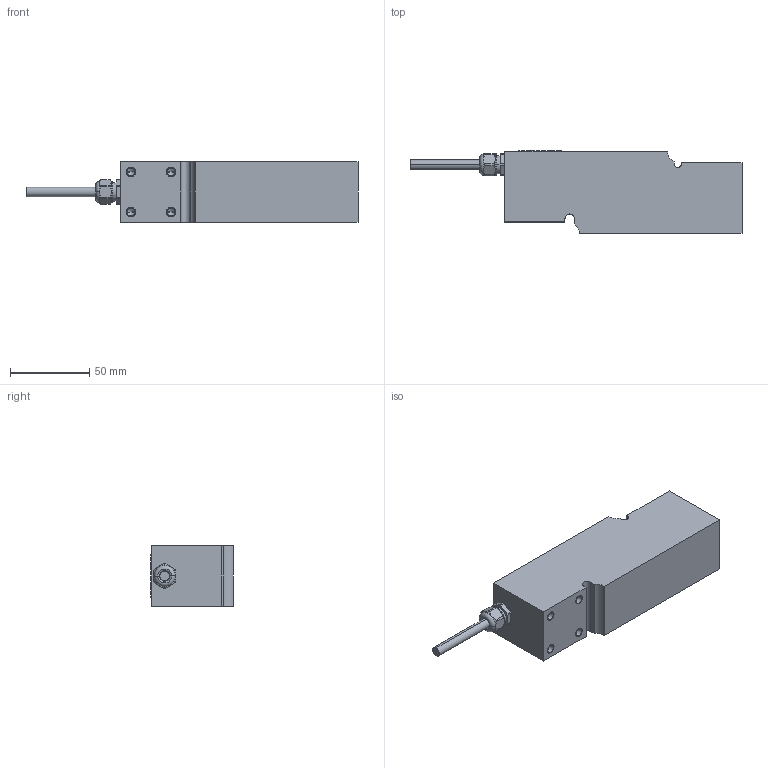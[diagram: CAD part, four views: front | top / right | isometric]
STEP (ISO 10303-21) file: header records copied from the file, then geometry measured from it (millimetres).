
FILE_DESCRIPTION((''),'2;1');
FILE_NAME('D000711413_ASM','2022-04-19T17:15:16',('wang-379'),(''),'CREO PARAMETRIC BY PTC INC, 2018260','CREO PARAMETRIC BY PTC INC, 2018260','');
FILE_SCHEMA(('CONFIG_CONTROL_DESIGN'));
Length unit declared in the file: millimetre
Products named in the file (4): D000512393; D000498808; ME-42111360; D000711413_ASM
Assembly tree (3 placements, depth 2):
  D000711413_ASM
    D000512393
    D000498808
    ME-42111360
Bounding box: 210 x 52.4 x 38 mm (x, y, z)
Volume: 265667.6 mm3; surface area: 38842.2 mm2
Topology: 3 solids, 12 shells, 161 faces, 402 edges, 254 vertices
Faces by surface type: cylinder 65, plane 59, cone 33, torus 4
Entity records: 4992 total; most frequent: CARTESIAN_POINT 1031, DIRECTION 870, ORIENTED_EDGE 736, EDGE_CURVE 386, AXIS2_PLACEMENT_3D 345, VERTEX_POINT 254, EDGE_LOOP 186, VECTOR 180
